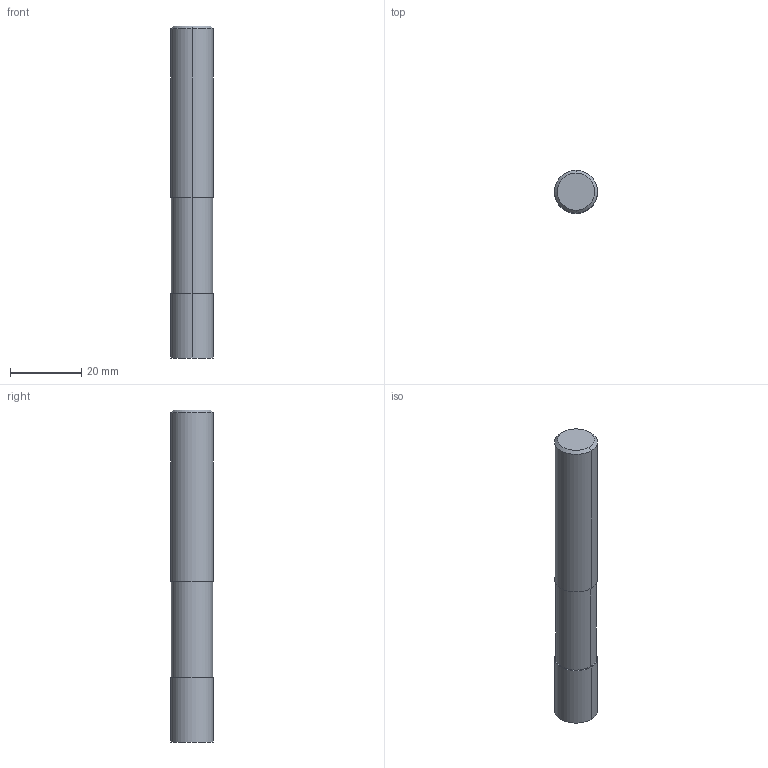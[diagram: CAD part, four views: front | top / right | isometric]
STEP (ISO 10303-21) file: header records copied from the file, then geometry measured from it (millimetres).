
FILE_DESCRIPTION((''),'2;1');
FILE_NAME('DIN4003_82_HEURO','2016-04-11T',('automc'),(''),'PRO/ENGINEER BY PARAMETRIC TECHNOLOGY CORPORATION, 2015280','PRO/ENGINEER BY PARAMETRIC TECHNOLOGY CORPORATION, 2015280','');
FILE_SCHEMA(('AUTOMOTIVE_DESIGN { 1 0 10303 214 1 1 1 1 }'));
Length unit declared in the file: millimetre
Products named in the file (1): DIN4003_82_HEURO
Bounding box: 12 x 12 x 93 mm (x, y, z)
Volume: 10257.4 mm3; surface area: 3689.8 mm2
Topology: 1 solids, 1 shells, 12 faces, 24 edges, 17 vertices
Faces by surface type: bspline 12
Entity records: 704 total; most frequent: CARTESIAN_POINT 219, DIRECTION 68, ORIENTED_EDGE 44, AXIS2_PLACEMENT_3D 26, PRESENTATION_STYLE_ASSIGNMENT 23, STYLED_ITEM 23, EDGE_CURVE 22, VECTOR 16
